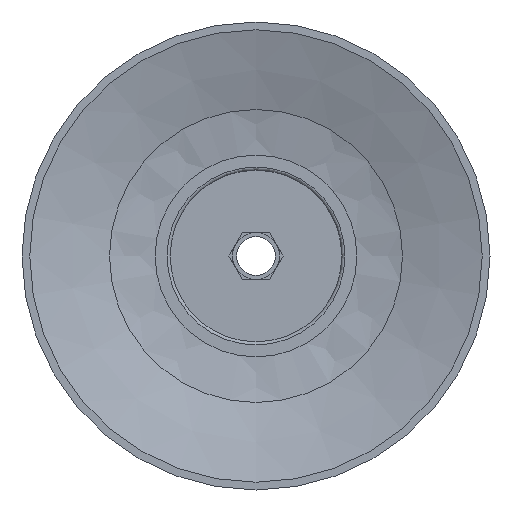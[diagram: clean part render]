
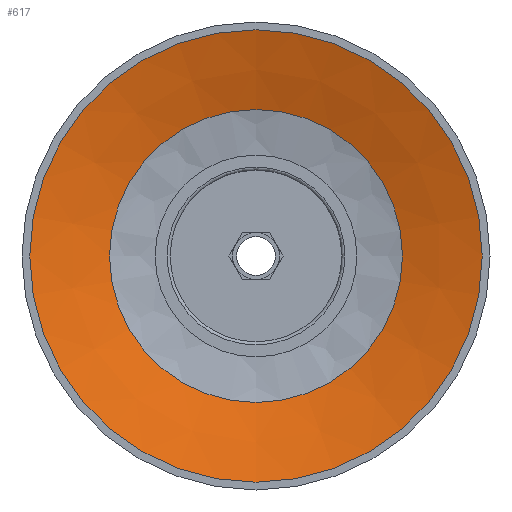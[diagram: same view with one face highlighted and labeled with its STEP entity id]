
A CAD part, front view. The second image highlights one B-rep face of the part: STEP entity #617.
In plain terms, the highlighted conical face has half-angle 73 degrees and reference radius 7.958 mm.
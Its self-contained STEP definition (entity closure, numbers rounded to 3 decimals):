
#617=ADVANCED_FACE('',(#921,#922),#923,.F.);
#921=FACE_BOUND('',#1322,.T.);
#922=FACE_OUTER_BOUND('',#1323,.T.);
#923=CONICAL_SURFACE('',#1324,7.958,1.274);
#1322=EDGE_LOOP('',(#2467));
#1323=EDGE_LOOP('',(#2468));
#1324=AXIS2_PLACEMENT_3D('',#2469,#2470,#2471);
#2467=ORIENTED_EDGE('',*,*,#3046,.T.);
#2468=ORIENTED_EDGE('',*,*,#3047,.T.);
#2469=CARTESIAN_POINT('',(0.0,9.363,0.0));
#2470=DIRECTION('',(-0.0,-1.0,0.));
#2471=DIRECTION('',(0.0,0.,-1.0));
#3046=EDGE_CURVE('',#3497,#3497,#3498,.T.);
#3047=EDGE_CURVE('',#3499,#3499,#3500,.T.);
#3497=VERTEX_POINT('',#4451);
#3498=CIRCLE('',#4452,9.388);
#3499=VERTEX_POINT('',#4453);
#3500=CIRCLE('',#4454,14.5);
#4451=CARTESIAN_POINT('',(0.0,8.926,-9.388));
#4452=AXIS2_PLACEMENT_3D('',#5240,#5241,#5242);
#4453=CARTESIAN_POINT('',(0.0,7.363,-14.5));
#4454=AXIS2_PLACEMENT_3D('',#5243,#5244,#5245);
#5240=CARTESIAN_POINT('',(0.0,8.926,0.0));
#5241=DIRECTION('',(0.0,1.0,0.));
#5242=DIRECTION('',(0.0,0.,-1.0));
#5243=CARTESIAN_POINT('',(0.0,7.363,0.0));
#5244=DIRECTION('',(0.0,-1.0,0.));
#5245=DIRECTION('',(0.0,0.,-1.0));
